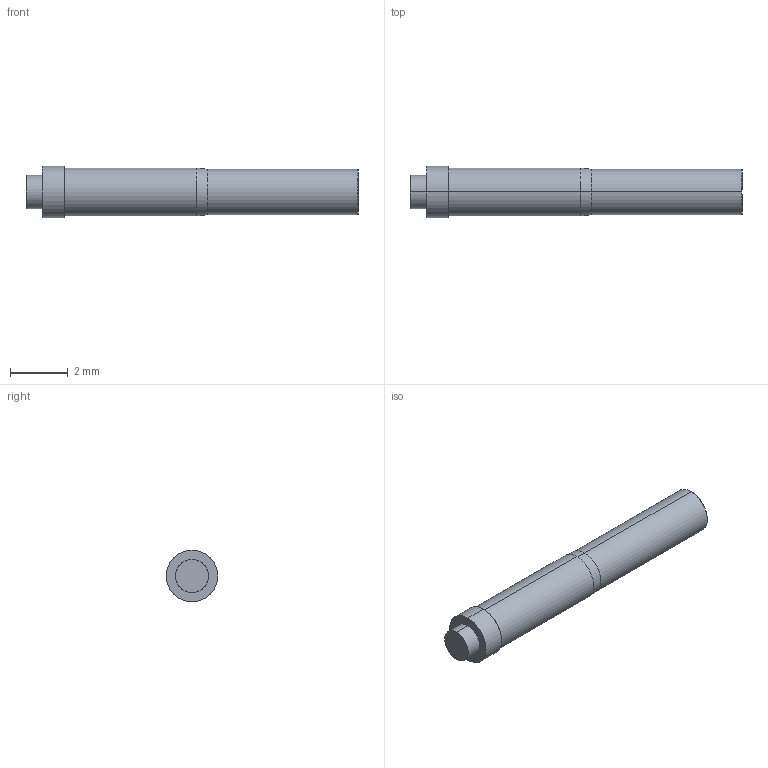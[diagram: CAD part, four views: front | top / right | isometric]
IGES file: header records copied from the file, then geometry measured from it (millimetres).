
Start section: SolidWorks IGES file using analytic representation for surfaces
Global section: file name: O:\PYLON\IGES FILES\E-S\E-S-F REC'D.IGS; native system: SolidWorks 2015; preprocessor: SolidWorks 2015; author: kgolden; date: 171024.083257; units: inch
Bounding box: 11.48 x 1.78 x 1.78 mm (x, y, z)
Surface area: 71.8 mm2 (no closed solid volume)
Topology: 0 solids, 0 shells, 17 faces, 208 edges, 208 vertices
Faces by surface type: revolution 12, bspline 5
